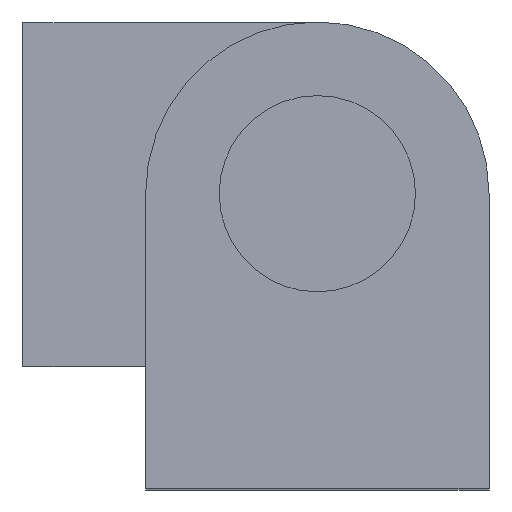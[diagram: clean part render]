
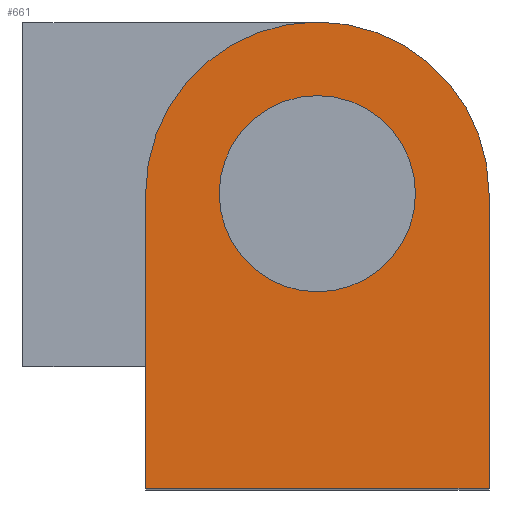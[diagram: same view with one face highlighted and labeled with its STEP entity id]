
A CAD part, top view. The second image highlights one B-rep face of the part: STEP entity #661.
In plain terms, the highlighted planar face has unit normal (0, 0, 1).
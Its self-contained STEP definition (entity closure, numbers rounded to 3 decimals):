
#6 = AXIS2_PLACEMENT_3D ( 'NONE', #520, #1649, #669 ) ;
#30 = CARTESIAN_POINT ( 'NONE',  ( 7., -12., 22.5 ) ) ;
#109 = CARTESIAN_POINT ( 'NONE',  ( 0., 0., 22.5 ) ) ;
#135 = ORIENTED_EDGE ( 'NONE', *, *, #1522, .T. ) ;
#136 = FACE_BOUND ( 'NONE', #413, .T. ) ;
#210 = DIRECTION ( 'NONE',  ( 0., 0., 1. ) ) ;
#272 = CARTESIAN_POINT ( 'NONE',  ( -7., -12., 22.5 ) ) ;
#298 = VERTEX_POINT ( 'NONE', #738 ) ;
#394 = VERTEX_POINT ( 'NONE', #1574 ) ;
#412 = DIRECTION ( 'NONE',  ( 1., 0., 0. ) ) ;
#413 = EDGE_LOOP ( 'NONE', ( #1541, #1657 ) ) ;
#438 = CARTESIAN_POINT ( 'NONE',  ( -7., 0., 22.5 ) ) ;
#472 = AXIS2_PLACEMENT_3D ( 'NONE', #109, #889, #412 ) ;
#497 = DIRECTION ( 'NONE',  ( 0., 1., 0. ) ) ;
#520 = CARTESIAN_POINT ( 'NONE',  ( 0., 0., 22.5 ) ) ;
#538 = EDGE_LOOP ( 'NONE', ( #1997, #1335, #967, #135 ) ) ;
#569 = DIRECTION ( 'NONE',  ( 0., 0., 1. ) ) ;
#661 = ADVANCED_FACE ( 'NONE', ( #1410, #136 ), #1380, .T. ) ;
#669 = DIRECTION ( 'NONE',  ( 1., 0., 0. ) ) ;
#681 = EDGE_CURVE ( 'NONE', #298, #1337, #975, .T. ) ;
#738 = CARTESIAN_POINT ( 'NONE',  ( -7., -12., 22.5 ) ) ;
#889 = DIRECTION ( 'NONE',  ( 0., 0., 1. ) ) ;
#928 = VECTOR ( 'NONE', #1553, 1000. ) ;
#967 = ORIENTED_EDGE ( 'NONE', *, *, #681, .T. ) ;
#975 = LINE ( 'NONE', #272, #928 ) ;
#1150 = VERTEX_POINT ( 'NONE', #1893 ) ;
#1161 = CARTESIAN_POINT ( 'NONE',  ( 0., 0., 22.5 ) ) ;
#1176 = VERTEX_POINT ( 'NONE', #1766 ) ;
#1324 = DIRECTION ( 'NONE',  ( 1., 0., 0. ) ) ;
#1335 = ORIENTED_EDGE ( 'NONE', *, *, #1501, .T. ) ;
#1337 = VERTEX_POINT ( 'NONE', #30 ) ;
#1350 = EDGE_CURVE ( 'NONE', #1572, #1150, #1978, .T. ) ;
#1380 = PLANE ( 'NONE',  #472 ) ;
#1409 = EDGE_CURVE ( 'NONE', #394, #1176, #1916, .T. ) ;
#1410 = FACE_OUTER_BOUND ( 'NONE', #538, .T. ) ;
#1481 = CARTESIAN_POINT ( 'NONE',  ( -4., 0., 22.5 ) ) ;
#1501 = EDGE_CURVE ( 'NONE', #1176, #298, #1715, .T. ) ;
#1522 = EDGE_CURVE ( 'NONE', #1337, #394, #1648, .T. ) ;
#1541 = ORIENTED_EDGE ( 'NONE', *, *, #1350, .F. ) ;
#1546 = CARTESIAN_POINT ( 'NONE',  ( 0., 0., 22.5 ) ) ;
#1553 = DIRECTION ( 'NONE',  ( 1., 0., 0. ) ) ;
#1562 = EDGE_CURVE ( 'NONE', #1150, #1572, #1638, .T. ) ;
#1572 = VERTEX_POINT ( 'NONE', #1481 ) ;
#1574 = CARTESIAN_POINT ( 'NONE',  ( 7., 0., 22.5 ) ) ;
#1638 = CIRCLE ( 'NONE', #1966, 4. ) ;
#1647 = VECTOR ( 'NONE', #497, 1000. ) ;
#1648 = LINE ( 'NONE', #1874, #1647 ) ;
#1649 = DIRECTION ( 'NONE',  ( 0., 0., 1. ) ) ;
#1657 = ORIENTED_EDGE ( 'NONE', *, *, #1562, .F. ) ;
#1687 = VECTOR ( 'NONE', #1722, 1000. ) ;
#1698 = DIRECTION ( 'NONE',  ( 1., 0., 0. ) ) ;
#1715 = LINE ( 'NONE', #438, #1687 ) ;
#1722 = DIRECTION ( 'NONE',  ( 0., -1., 0. ) ) ;
#1766 = CARTESIAN_POINT ( 'NONE',  ( -7., 0., 22.5 ) ) ;
#1874 = CARTESIAN_POINT ( 'NONE',  ( 7., -12., 22.5 ) ) ;
#1893 = CARTESIAN_POINT ( 'NONE',  ( 4., 0., 22.5 ) ) ;
#1916 = CIRCLE ( 'NONE', #2007, 7. ) ;
#1966 = AXIS2_PLACEMENT_3D ( 'NONE', #1161, #210, #1324 ) ;
#1978 = CIRCLE ( 'NONE', #6, 4. ) ;
#1997 = ORIENTED_EDGE ( 'NONE', *, *, #1409, .T. ) ;
#2007 = AXIS2_PLACEMENT_3D ( 'NONE', #1546, #569, #1698 ) ;
